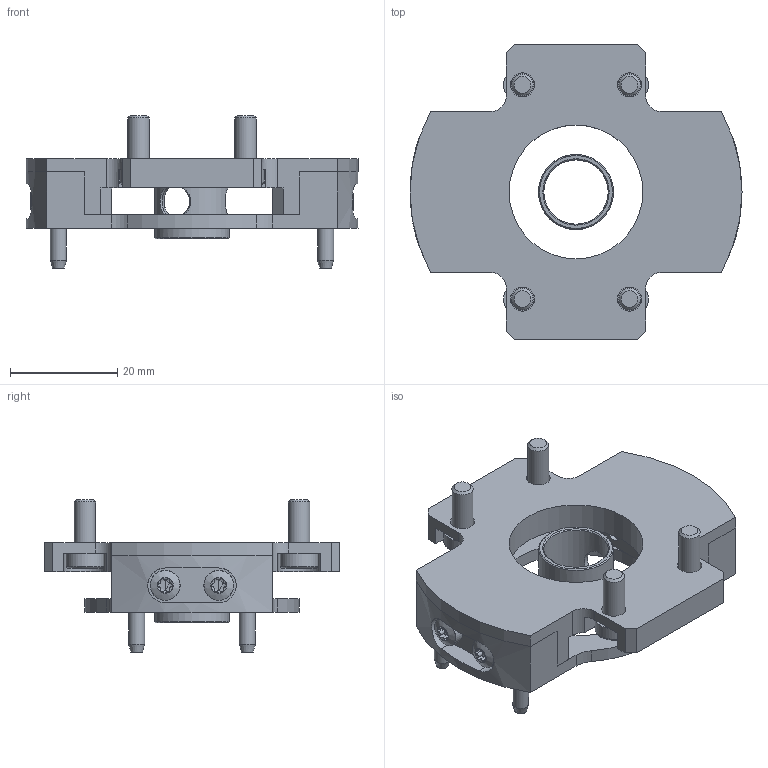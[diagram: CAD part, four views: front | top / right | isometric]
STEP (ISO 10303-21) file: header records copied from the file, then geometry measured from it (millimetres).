
FILE_DESCRIPTION(/* description */ (''),/* implementation_level */ '2;1');
FILE_NAME(/* name */ 'C:\ProgramData\PROCAD GmbH & Co. KG\NdfWork\339575_NdfWork\D00293026.step',/* time_stamp */ '2021-03-05T09:02:43+01:00',/* author */ ('fberger'),/* organization */ (''),/* preprocessor_version */ 'ST-DEVELOPER v18.1',/* originating_system */ 'Autodesk Inventor 2020',/* authorisation */ '');
FILE_SCHEMA (('AUTOMOTIVE_DESIGN { 1 0 10303 214 3 1 1 }'));
Length unit declared in the file: millimetre
Products named in the file (7): D00293026.iam; D00291212.ipt; D00291213.ipt; D00136826.ipt; D00187700.ipt; D00128762.ipt; D00292872.ipt
Assembly tree (15 placements, depth 2):
  D00293026.iam
    D00291212.ipt
    D00291213.ipt
    D00136826.ipt
    D00187700.ipt  x4
    D00128762.ipt  x4
    D00292872.ipt  x4
Bounding box: 62 x 55 x 28.5 mm (x, y, z)
Volume: 17808.5 mm3; surface area: 15561.3 mm2
Topology: 15 solids, 15 shells, 414 faces, 1125 edges, 761 vertices
Faces by surface type: cylinder 173, plane 122, bspline 51, cone 32, torus 32, sphere 4
Full cylindrical faces by diameter (mm): 2.459 x4, 2.828 x4, 3 x8, 3.3 x8, 4 x4, 4.5 x4, 5.3 x4, 5.6 x4, 6 x7, 7 x4, 12 x1, 14 x1, 25 x1, 30 x1
Entity records: 8266 total; most frequent: CARTESIAN_POINT 2906, ORIENTED_EDGE 1070, DIRECTION 1044, EDGE_CURVE 535, AXIS2_PLACEMENT_3D 398, VERTEX_POINT 366, LINE 248, VECTOR 248
